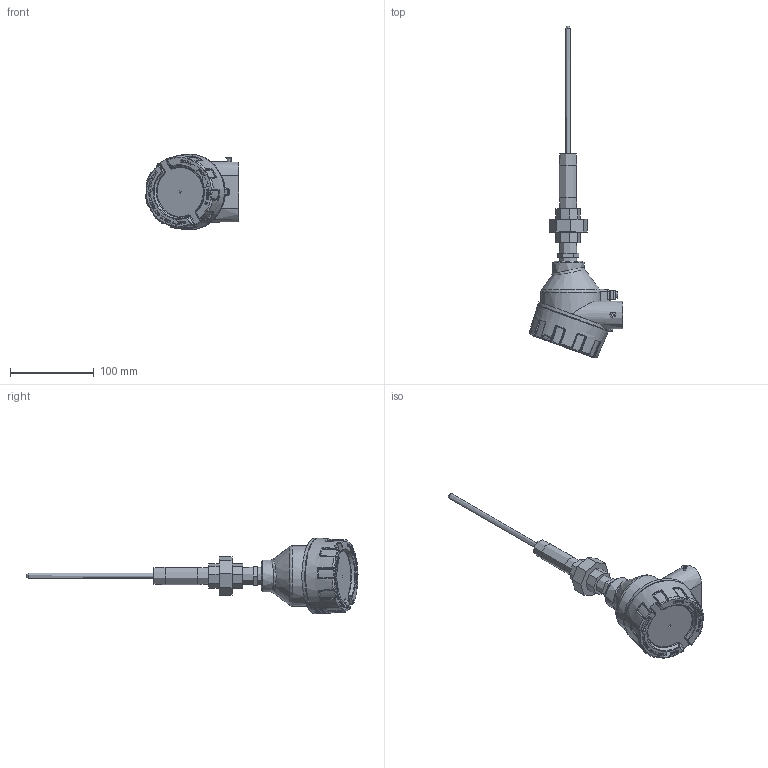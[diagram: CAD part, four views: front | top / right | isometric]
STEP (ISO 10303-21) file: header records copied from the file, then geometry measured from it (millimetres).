
FILE_DESCRIPTION(/* description */ (''),/* implementation_level */ '2;1');
FILE_NAME(/* name */ 'P:\3D Drawings\Z-temp\Z-Temp-Head-Nipple-Union-Nipple\Z-Temp-Head-Nipple-Union-Nipple-STP\Z-Temp-Head-Nipple-Union-Nipple-STP.stp',/* time_stamp */ '2015-11-11T12:46:24-08:00',/* author */ ('charles'),/* organization */ (''),/* preprocessor_version */ 'ST-DEVELOPER v15.2',/* originating_system */ 'Autodesk Inventor 2014',/* authorisation */ '');
FILE_SCHEMA (('AUTOMOTIVE_DESIGN { 1 0 10303 214 3 1 1 }'));
Products named in the file (1): Z-Temp-Head-Nipple-Union-Nipple
Bounding box: 111.13 x 395.35 x 89.98 mm (x, y, z)
Volume: 316798.6 mm3; surface area: 96262.4 mm2
Topology: 3 solids, 8 shells, 1437 faces, 3604 edges, 2260 vertices
Faces by surface type: plane 640, bspline 528, cylinder 150, cone 58, torus 54, sphere 7
Full cylindrical faces by diameter (mm): 2.013 x2, 2.459 x1, 2.46 x1, 2.6 x1, 3.242 x8, 3.9 x1, 4 x1, 4.1 x1, 4.134 x1, 4.2 x1, 4.5 x1, 4.8 x1, 4.9 x1, 5 x2, 5.2 x1, 6 x2, 6.35 x1, 6.5 x1, 6.8 x1, 7 x1, 7.28 x1, 8.4 x1, 12.8 x1, 15 x2, 16.1 x2, 18.376 x2, 21.268 x1, 24.117 x1, 28 x2, 38 x1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
Entity records: 96045 total; most frequent: CARTESIAN_POINT 65173, ORIENTED_EDGE 6906, DIRECTION 4971, EDGE_CURVE 3453, VERTEX_POINT 2226, LINE 1757, VECTOR 1757, EDGE_LOOP 1655
